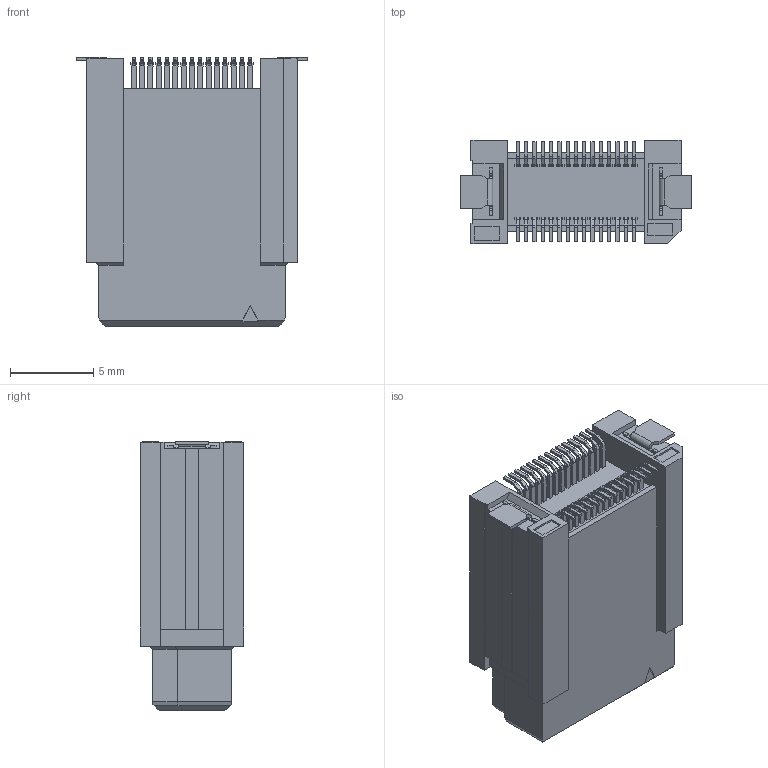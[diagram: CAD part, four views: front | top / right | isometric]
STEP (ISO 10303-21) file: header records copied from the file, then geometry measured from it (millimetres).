
FILE_DESCRIPTION(('Creo Elements/Direct Modeling STEP Export'),'2;1');
FILE_NAME('P3D522_DT10-030S-18-T.stp','2022-03-16T14:37:00',(''),(''),'Creo Elements/Direct Modeling STEP processor for AP214 (Solid Model)','Creo Elements/Direct Modeling 20.4A 18-Oct-2021 (C) Parametric Technology GmbH','');
FILE_SCHEMA(('AUTOMOTIVE_DESIGN { 1 0 10303 214 1 1 1 1 }'));
Length unit declared in the file: millimetre
Products named in the file (2): DT10-030S-18-T
Assembly tree (1 placements, depth 2):
  DT10-030S-18-T
    DT10-030S-18-T
Bounding box: 13.9 x 6.2 x 16.18 mm (x, y, z)
Volume: 887.4 mm3; surface area: 911.8 mm2
Topology: 1 solids, 1 shells, 1033 faces, 2901 edges, 1907 vertices
Faces by surface type: plane 841, cylinder 192
Entity records: 32815 total; most frequent: ORIENTED_EDGE 5802, CARTESIAN_POINT 5778, DIRECTION 5349, EDGE_CURVE 2901, VECTOR 2393, LINE 2393, VERTEX_POINT 1907, AXIS2_PLACEMENT_3D 1478
